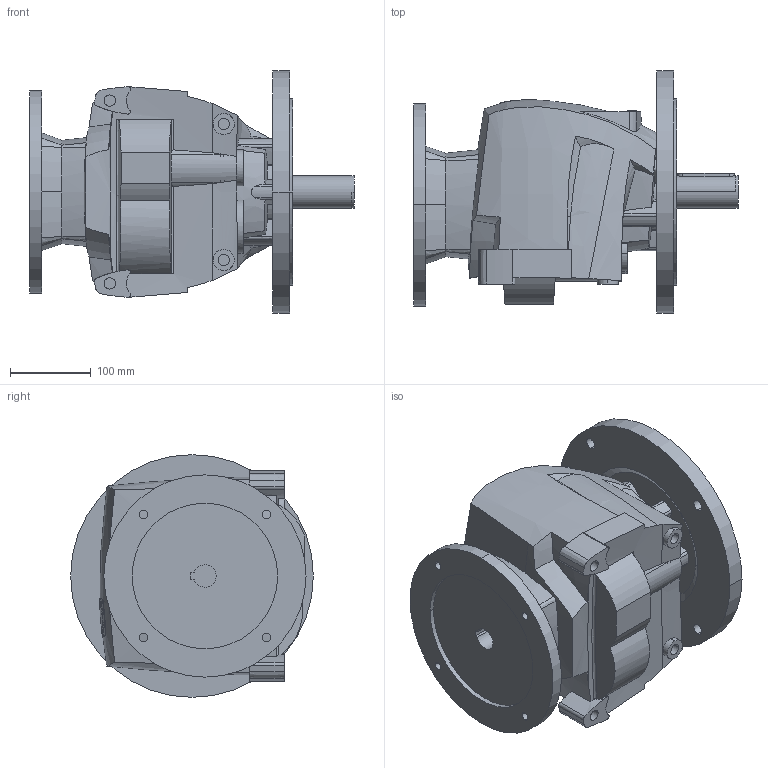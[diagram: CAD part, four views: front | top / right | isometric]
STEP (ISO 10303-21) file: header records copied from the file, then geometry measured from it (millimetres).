
FILE_DESCRIPTION((''),'2;1');
FILE_NAME('R40_300_PAM100112','2013-11-27T',('Luca'),(''),'PRO/ENGINEER BY PARAMETRIC TECHNOLOGY CORPORATION, 2008230','PRO/ENGINEER BY PARAMETRIC TECHNOLOGY CORPORATION, 2008230','');
FILE_SCHEMA(('CONFIG_CONTROL_DESIGN'));
Length unit declared in the file: millimetre
Products named in the file (1): R40_300_PAM100112
Bounding box: 401.5 x 300 x 300 mm (x, y, z)
Volume: 12558663.7 mm3; surface area: 566882.7 mm2
Topology: 1 solids, 7 shells, 449 faces, 1213 edges, 810 vertices
Faces by surface type: cylinder 149, plane 147, bspline 86, extrusion 37, cone 22, torus 8
Entity records: 19050 total; most frequent: CARTESIAN_POINT 8631, ORIENTED_EDGE 2422, DIRECTION 1679, EDGE_CURVE 1211, VERTEX_POINT 810, AXIS2_PLACEMENT_3D 566, VECTOR 547, LINE 510
